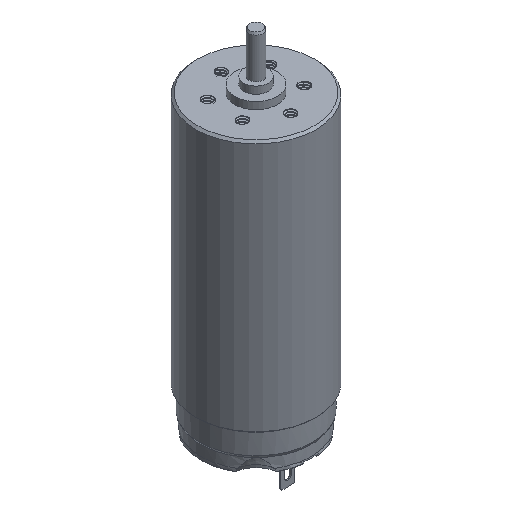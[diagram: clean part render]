
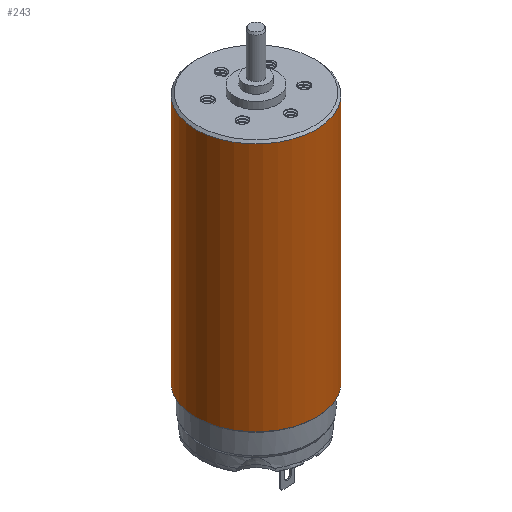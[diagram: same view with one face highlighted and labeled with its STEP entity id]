
A CAD part, isometric view. The second image highlights one B-rep face of the part: STEP entity #243.
In plain terms, the highlighted cylindrical face has radius 8.5 mm (diameter 17 mm), a full revolution.
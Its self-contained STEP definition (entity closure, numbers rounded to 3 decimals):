
#90=FACE_BOUND('',#563,.T.);
#91=FACE_BOUND('',#564,.T.);
#243=ADVANCED_FACE('',(#90,#91),#375,.T.);
#375=CYLINDRICAL_SURFACE('',#2558,8.5);
#563=EDGE_LOOP('',(#1115));
#564=EDGE_LOOP('',(#1116));
#882=CIRCLE('',#2556,8.5);
#883=CIRCLE('',#2557,8.5);
#1115=ORIENTED_EDGE('',*,*,#2026,.T.);
#1116=ORIENTED_EDGE('',*,*,#2027,.T.);
#1765=VERTEX_POINT('',#7049);
#1766=VERTEX_POINT('',#7051);
#2026=EDGE_CURVE('',#1765,#1765,#882,.T.);
#2027=EDGE_CURVE('',#1766,#1766,#883,.T.);
#2556=AXIS2_PLACEMENT_3D('',#7048,#2948,#2949);
#2557=AXIS2_PLACEMENT_3D('',#7050,#2950,#2951);
#2558=AXIS2_PLACEMENT_3D('',#7052,#2952,#2953);
#2948=DIRECTION('',(0.,0.,1.));
#2949=DIRECTION('',(-1.,0.,0.));
#2950=DIRECTION('',(0.,0.,-1.));
#2951=DIRECTION('',(1.,0.,0.));
#2952=DIRECTION('',(0.,0.,-1.));
#2953=DIRECTION('',(-1.,0.,0.));
#7048=CARTESIAN_POINT('',(0.,0.,-35.5));
#7049=CARTESIAN_POINT('',(-8.5,0.,-35.5));
#7050=CARTESIAN_POINT('',(0.,0.,-0.3));
#7051=CARTESIAN_POINT('',(8.5,0.,-0.3));
#7052=CARTESIAN_POINT('',(0.,0.,0.));
